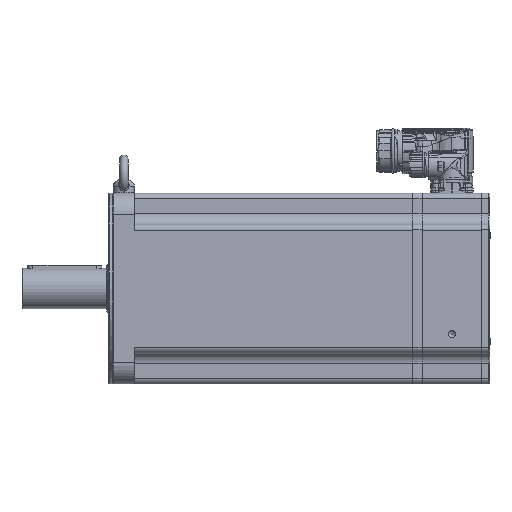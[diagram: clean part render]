
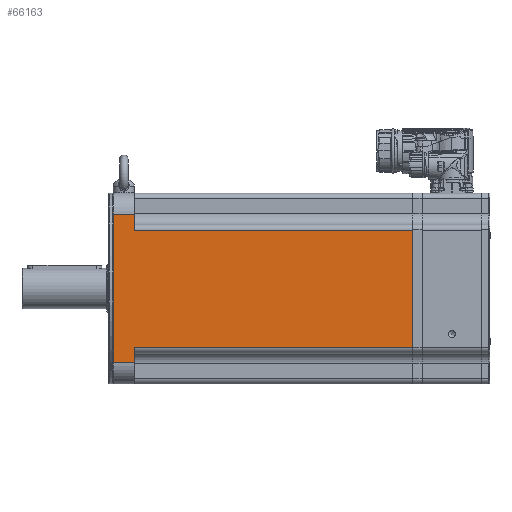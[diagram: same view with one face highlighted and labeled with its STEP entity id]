
A CAD part, left-side view. The second image highlights one B-rep face of the part: STEP entity #66163.
In plain terms, the highlighted planar face has unit normal (-1, 0, 0) as drawn and (1, 0, 0) by its records, which use the part's own axes.
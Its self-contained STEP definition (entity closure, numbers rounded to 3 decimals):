
#1274=PLANE('',#69857);
#5245=LINE('',#90830,#7764);
#5259=LINE('',#90911,#7778);
#5266=LINE('',#90962,#7785);
#5274=LINE('',#90986,#7793);
#5275=LINE('',#90987,#7794);
#5276=LINE('',#90989,#7795);
#5277=LINE('',#90991,#7796);
#5278=LINE('',#90992,#7797);
#7764=VECTOR('',#75970,1000.);
#7778=VECTOR('',#76046,1000.);
#7785=VECTOR('',#76099,1000.);
#7793=VECTOR('',#76123,1000.);
#7794=VECTOR('',#76124,1000.);
#7795=VECTOR('',#76125,1000.);
#7796=VECTOR('',#76126,1000.);
#7797=VECTOR('',#76127,1000.);
#12666=ORIENTED_EDGE('',*,*,#25014,.F.);
#12667=ORIENTED_EDGE('',*,*,#25084,.T.);
#12668=ORIENTED_EDGE('',*,*,#25050,.F.);
#12669=ORIENTED_EDGE('',*,*,#25085,.T.);
#12670=ORIENTED_EDGE('',*,*,#25086,.F.);
#12671=ORIENTED_EDGE('',*,*,#25087,.T.);
#12672=ORIENTED_EDGE('',*,*,#25072,.F.);
#12673=ORIENTED_EDGE('',*,*,#25088,.T.);
#25014=EDGE_CURVE('',#31453,#31454,#5245,.T.);
#25050=EDGE_CURVE('',#31489,#31490,#5259,.T.);
#25072=EDGE_CURVE('',#31511,#31512,#5266,.T.);
#25084=EDGE_CURVE('',#31453,#31490,#5274,.F.);
#25085=EDGE_CURVE('',#31489,#31519,#5275,.T.);
#25086=EDGE_CURVE('',#31520,#31519,#5276,.T.);
#25087=EDGE_CURVE('',#31520,#31512,#5277,.F.);
#25088=EDGE_CURVE('',#31511,#31454,#5278,.T.);
#31453=VERTEX_POINT('',#90829);
#31454=VERTEX_POINT('',#90831);
#31489=VERTEX_POINT('',#90910);
#31490=VERTEX_POINT('',#90912);
#31511=VERTEX_POINT('',#90963);
#31512=VERTEX_POINT('',#90964);
#31519=VERTEX_POINT('',#90988);
#31520=VERTEX_POINT('',#90990);
#37930=EDGE_LOOP('',(#12666,#12667,#12668,#12669,#12670,#12671,#12672,#12673));
#41713=FACE_BOUND('',#37930,.T.);
#66163=ADVANCED_FACE('',(#41713),#1274,.T.);
#69857=AXIS2_PLACEMENT_3D('',#90985,#76121,#76122);
#75970=DIRECTION('',(0.,0.,-1.));
#76046=DIRECTION('',(0.,0.,-1.));
#76099=DIRECTION('',(0.,0.,-1.));
#76121=DIRECTION('',(1.,0.,0.));
#76122=DIRECTION('',(0.,1.,0.));
#76123=DIRECTION('',(0.,1.,0.));
#76124=DIRECTION('',(0.,-1.,0.));
#76125=DIRECTION('',(0.,0.,1.));
#76126=DIRECTION('',(0.,-1.,0.));
#76127=DIRECTION('',(0.,1.,0.));
#90829=CARTESIAN_POINT('',(90.,283.8,55.2));
#90830=CARTESIAN_POINT('',(90.,283.8,-90.));
#90831=CARTESIAN_POINT('',(90.,283.8,-55.2));
#90910=CARTESIAN_POINT('',(90.,21.3,70.));
#90911=CARTESIAN_POINT('',(90.,21.3,-90.));
#90912=CARTESIAN_POINT('',(90.,21.3,55.2));
#90962=CARTESIAN_POINT('',(90.,21.3,-90.));
#90963=CARTESIAN_POINT('',(90.,21.3,-55.2));
#90964=CARTESIAN_POINT('',(90.,21.3,-70.));
#90985=CARTESIAN_POINT('',(90.,488.463,-90.));
#90986=CARTESIAN_POINT('',(90.,488.463,55.2));
#90987=CARTESIAN_POINT('',(90.,488.463,70.));
#90988=CARTESIAN_POINT('',(90.,1.3,70.));
#90989=CARTESIAN_POINT('',(90.,1.3,-90.));
#90990=CARTESIAN_POINT('',(90.,1.3,-70.));
#90991=CARTESIAN_POINT('',(90.,488.463,-70.));
#90992=CARTESIAN_POINT('',(90.,488.463,-55.2));
